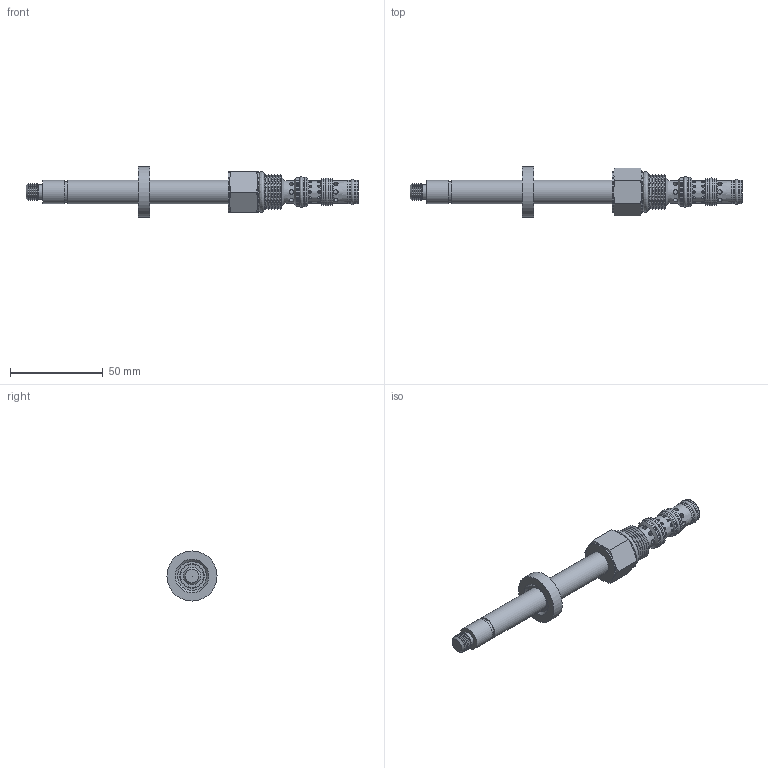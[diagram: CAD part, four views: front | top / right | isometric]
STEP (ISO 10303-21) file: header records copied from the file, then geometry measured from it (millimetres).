
FILE_DESCRIPTION((''),'2;1');
FILE_NAME('U:\sat files\PQS4P00.stp','2009-09-09T09:02:47',('Dan'),(''),'Autodesk Inventor 2009','Autodesk Inventor 2009','');
FILE_SCHEMA(('AUTOMOTIVE_DESIGN { 1 0 10303 214 1 1 1 1 }'));
Length unit declared in the file: inch
Products named in the file (13): PQS4P00; PQS4P001; PQS4P002; PQS4P003; PQS4P004; PQS4P005; PQS4P006; PQS4P007; PQS4P008; PQS4P009; PQS4P0010; PQS4P0011; PQS4P0012
Assembly tree (12 placements, depth 2):
  PQS4P00
    PQS4P001
    PQS4P002
    PQS4P003
    PQS4P004
    PQS4P005
    PQS4P006
    PQS4P007
    PQS4P008
    PQS4P009
    PQS4P0010
    PQS4P0011
    PQS4P0012
Bounding box: 178.75 x 26.99 x 26.99 mm (x, y, z)
Volume: 31112.1 mm3; surface area: 14211.8 mm2
Topology: 12 solids, 12 shells, 207 faces, 368 edges, 224 vertices
Faces by surface type: bspline 156, cylinder 43, plane 6, cone 2
Full cylindrical faces by diameter (mm): 6.35 x1, 13.081 x1, 26.988 x1
Entity records: 9148 total; most frequent: CARTESIAN_POINT 6024, ORIENTED_EDGE 468, EDGE_LOOP 389, DIRECTION 388, EDGE_CURVE 234, VERTEX_POINT 211, FACE_OUTER_BOUND 207, ADVANCED_FACE 207
